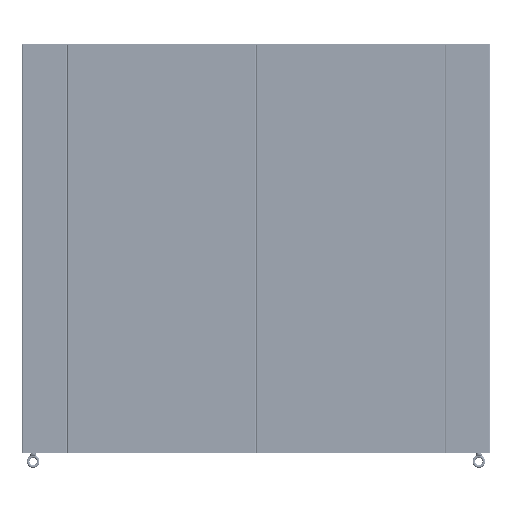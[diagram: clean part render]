
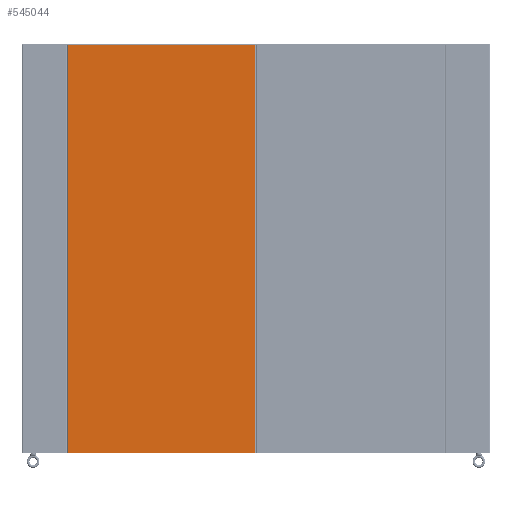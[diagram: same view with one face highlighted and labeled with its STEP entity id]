
A CAD part, left-side view. The second image highlights one B-rep face of the part: STEP entity #545044.
In plain terms, the highlighted planar face has unit normal (-1, 0, 0) as drawn and (0, 0, -1) by its records, which use the part's own axes.
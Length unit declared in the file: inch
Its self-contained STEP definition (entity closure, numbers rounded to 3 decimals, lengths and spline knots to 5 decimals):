
#544065=DIRECTION('',(0.,-1.,0.));
#544066=VECTOR('',#544065,67.792);
#544067=CARTESIAN_POINT('',(-15.4985,33.896,-0.104));
#544068=LINE('',#544067,#544066);
#544255=DIRECTION('',(0.,1.,0.));
#544256=VECTOR('',#544255,67.792);
#544257=CARTESIAN_POINT('',(15.4985,-33.896,-0.104));
#544258=LINE('',#544257,#544256);
#544416=DIRECTION('',(-1.,0.,0.));
#544417=VECTOR('',#544416,30.997);
#544418=CARTESIAN_POINT('',(15.4985,33.896,-0.104));
#544419=LINE('',#544418,#544417);
#544423=DIRECTION('',(1.,0.,0.));
#544424=VECTOR('',#544423,30.997);
#544425=CARTESIAN_POINT('',(-15.4985,-33.896,-0.104));
#544426=LINE('',#544425,#544424);
#544434=CARTESIAN_POINT('',(-15.4985,-33.896,-0.104));
#544435=VERTEX_POINT('',#544434);
#544436=CARTESIAN_POINT('',(-15.4985,33.896,-0.104));
#544437=VERTEX_POINT('',#544436);
#544450=CARTESIAN_POINT('',(15.4985,33.896,-0.104));
#544451=VERTEX_POINT('',#544450);
#544452=CARTESIAN_POINT('',(15.4985,-33.896,-0.104));
#544453=VERTEX_POINT('',#544452);
#545033=CARTESIAN_POINT('',(0.,0.,-0.104));
#545034=DIRECTION('',(0.,0.,1.));
#545035=DIRECTION('',(1.,0.,0.));
#545036=AXIS2_PLACEMENT_3D('',#545033,#545034,#545035);
#545037=PLANE('',#545036);
#545038=ORIENTED_EDGE('',*,*,#544525,.T.);
#545039=ORIENTED_EDGE('',*,*,#544570,.T.);
#545040=ORIENTED_EDGE('',*,*,#544784,.T.);
#545041=ORIENTED_EDGE('',*,*,#544828,.T.);
#545042=EDGE_LOOP('',(#545038,#545039,#545040,#545041));
#545043=FACE_OUTER_BOUND('',#545042,.F.);
#544525=EDGE_CURVE('',#544451,#544437,#544419,.T.);
#544570=EDGE_CURVE('',#544437,#544435,#544068,.T.);
#544784=EDGE_CURVE('',#544435,#544453,#544426,.T.);
#544828=EDGE_CURVE('',#544453,#544451,#544258,.T.);
#545044=ADVANCED_FACE('',(#545043),#545037,.F.);
